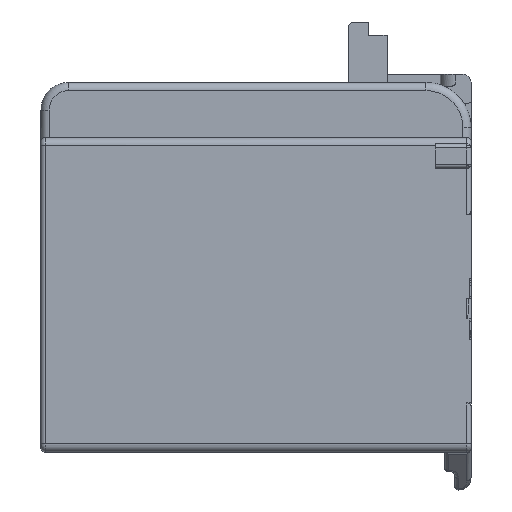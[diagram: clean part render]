
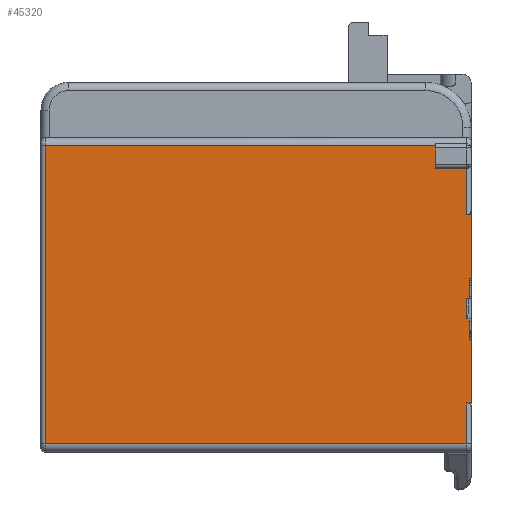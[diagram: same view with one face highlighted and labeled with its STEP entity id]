
A CAD part, left-side view. The second image highlights one B-rep face of the part: STEP entity #45320.
In plain terms, the highlighted planar face has unit normal (-1, 0, 0).
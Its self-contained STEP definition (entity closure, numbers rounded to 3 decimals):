
#41840=CARTESIAN_POINT('',(-6.725,0.2,-6.65));
#41850=VERTEX_POINT('',#41840);
#41900=CARTESIAN_POINT('',(-6.725,0.,-6.65));
#41910=DIRECTION('',(0.,-1.,0.));
#41920=VECTOR('',#41910,1.);
#41930=LINE('',#41900,#41920);
#41940=CARTESIAN_POINT('',(-6.725,0.,-6.65));
#41950=VERTEX_POINT('',#41940);
#41960=EDGE_CURVE('',#41850,#41950,#41930,.T.);
#43900=CARTESIAN_POINT('',(-6.725,0.,-9.1));
#43910=DIRECTION('',(-1.,0.,0.));
#43920=DIRECTION('',(0.,0.,1.));
#43930=AXIS2_PLACEMENT_3D('',#43900,#43910,#43920);
#43940=PLANE('',#43930);
#43950=CARTESIAN_POINT('',(-6.725,-27.636,5.9));
#43960=DIRECTION('',(0.,1.,0.));
#43970=VECTOR('',#43960,1.);
#43980=LINE('',#43950,#43970);
#43990=CARTESIAN_POINT('',(-6.725,1.75,5.9));
#44000=VERTEX_POINT('',#43990);
#44010=CARTESIAN_POINT('',(-6.725,20.8,5.9));
#44020=VERTEX_POINT('',#44010);
#44030=EDGE_CURVE('',#44000,#44020,#43980,.T.);
#44040=ORIENTED_EDGE('',*,*,#44030,.T.);
#44050=CARTESIAN_POINT('',(-6.725,1.75,5.9));
#44060=DIRECTION('',(0.,0.,-1.));
#44070=VECTOR('',#44060,1.1);
#44080=LINE('',#44050,#44070);
#44090=CARTESIAN_POINT('',(-6.725,1.75,4.8));
#44100=VERTEX_POINT('',#44090);
#44110=EDGE_CURVE('',#44000,#44100,#44080,.T.);
#44120=ORIENTED_EDGE('',*,*,#44110,.F.);
#44130=CARTESIAN_POINT('',(-6.725,0.2,4.8));
#44140=DIRECTION('',(0.,1.,0.));
#44150=VECTOR('',#44140,1.55);
#44160=LINE('',#44130,#44150);
#44170=CARTESIAN_POINT('',(-6.725,0.2,4.8));
#44180=VERTEX_POINT('',#44170);
#44190=EDGE_CURVE('',#44180,#44100,#44160,.T.);
#44200=ORIENTED_EDGE('',*,*,#44190,.T.);
#44210=CARTESIAN_POINT('',(-6.725,0.2,4.8));
#44220=DIRECTION('',(0.,0.,-1.));
#44230=VECTOR('',#44220,2.25);
#44240=LINE('',#44210,#44230);
#44250=CARTESIAN_POINT('',(-6.725,0.2,2.55));
#44260=VERTEX_POINT('',#44250);
#44270=EDGE_CURVE('',#44180,#44260,#44240,.T.);
#44280=ORIENTED_EDGE('',*,*,#44270,.F.);
#44290=CARTESIAN_POINT('',(-6.725,0.,2.55));
#44300=DIRECTION('',(0.,-1.,0.));
#44310=VECTOR('',#44300,1.);
#44320=LINE('',#44290,#44310);
#44330=CARTESIAN_POINT('',(-6.725,0.,2.55));
#44340=VERTEX_POINT('',#44330);
#44350=EDGE_CURVE('',#44260,#44340,#44320,.T.);
#44360=ORIENTED_EDGE('',*,*,#44350,.F.);
#44370=CARTESIAN_POINT('',(-6.725,0.,0.));
#44380=DIRECTION('',(0.,0.,1.));
#44390=VECTOR('',#44380,1.);
#44400=LINE('',#44370,#44390);
#44410=CARTESIAN_POINT('',(-6.725,0.,-0.55));
#44420=VERTEX_POINT('',#44410);
#44430=EDGE_CURVE('',#44420,#44340,#44400,.T.);
#44440=ORIENTED_EDGE('',*,*,#44430,.T.);
#44450=CARTESIAN_POINT('',(-6.725,0.,-0.55));
#44460=DIRECTION('',(0.,-1.,0.));
#44470=VECTOR('',#44460,1.);
#44480=LINE('',#44450,#44470);
#44490=CARTESIAN_POINT('',(-6.725,0.1,-0.55));
#44500=VERTEX_POINT('',#44490);
#44510=EDGE_CURVE('',#44500,#44420,#44480,.T.);
#44520=ORIENTED_EDGE('',*,*,#44510,.T.);
#44530=CARTESIAN_POINT('',(-6.725,0.1,-1.55));
#44540=DIRECTION('',(0.,0.,1.));
#44550=VECTOR('',#44540,1.);
#44560=LINE('',#44530,#44550);
#44570=CARTESIAN_POINT('',(-6.725,0.1,-1.55));
#44580=VERTEX_POINT('',#44570);
#44590=EDGE_CURVE('',#44580,#44500,#44560,.T.);
#44600=ORIENTED_EDGE('',*,*,#44590,.T.);
#44610=CARTESIAN_POINT('',(-6.725,0.2,-1.55));
#44620=DIRECTION('',(0.,-1.,0.));
#44630=VECTOR('',#44620,0.1);
#44640=LINE('',#44610,#44630);
#44650=CARTESIAN_POINT('',(-6.725,0.199,-1.55));
#44660=VERTEX_POINT('',#44650);
#44670=EDGE_CURVE('',#44660,#44580,#44640,.T.);
#44680=ORIENTED_EDGE('',*,*,#44670,.T.);
#44690=CARTESIAN_POINT('',(-6.725,0.199,0.));
#44700=DIRECTION('',(-0.,0.,-1.));
#44710=VECTOR('',#44700,1.);
#44720=LINE('',#44690,#44710);
#44730=CARTESIAN_POINT('',(-6.725,0.199,-2.55));
#44740=VERTEX_POINT('',#44730);
#44750=EDGE_CURVE('',#44660,#44740,#44720,.T.);
#44760=ORIENTED_EDGE('',*,*,#44750,.F.);
#44770=CARTESIAN_POINT('',(-6.725,0.,-2.55));
#44780=DIRECTION('',(0.,1.,-0.));
#44790=VECTOR('',#44780,1.);
#44800=LINE('',#44770,#44790);
#44810=CARTESIAN_POINT('',(-6.725,0.1,-2.55));
#44820=VERTEX_POINT('',#44810);
#44830=EDGE_CURVE('',#44820,#44740,#44800,.T.);
#44840=ORIENTED_EDGE('',*,*,#44830,.T.);
#44850=CARTESIAN_POINT('',(-6.725,0.1,-3.55));
#44860=DIRECTION('',(0.,0.,1.));
#44870=VECTOR('',#44860,1.);
#44880=LINE('',#44850,#44870);
#44890=CARTESIAN_POINT('',(-6.725,0.1,-3.55));
#44900=VERTEX_POINT('',#44890);
#44910=EDGE_CURVE('',#44900,#44820,#44880,.T.);
#44920=ORIENTED_EDGE('',*,*,#44910,.T.);
#44930=CARTESIAN_POINT('',(-6.725,0.,-3.55));
#44940=DIRECTION('',(0.,-1.,0.));
#44950=VECTOR('',#44940,1.);
#44960=LINE('',#44930,#44950);
#44970=CARTESIAN_POINT('',(-6.725,0.,-3.55));
#44980=VERTEX_POINT('',#44970);
#44990=EDGE_CURVE('',#44900,#44980,#44960,.T.);
#45000=ORIENTED_EDGE('',*,*,#44990,.F.);
#45010=CARTESIAN_POINT('',(-6.725,0.,0.));
#45020=DIRECTION('',(0.,-0.,1.));
#45030=VECTOR('',#45020,1.);
#45040=LINE('',#45010,#45030);
#45050=EDGE_CURVE('',#41950,#44980,#45040,.T.);
#45060=ORIENTED_EDGE('',*,*,#45050,.T.);
#45070=ORIENTED_EDGE('',*,*,#41960,.T.);
#45080=CARTESIAN_POINT('',(-6.725,0.2,-6.65));
#45090=DIRECTION('',(0.,0.,-1.));
#45100=VECTOR('',#45090,2.);
#45110=LINE('',#45080,#45100);
#45120=CARTESIAN_POINT('',(-6.725,0.2,
-8.65));
#45130=VERTEX_POINT('',#45120);
#45140=EDGE_CURVE('',#41850,#45130,#45110,.T.);
#45150=ORIENTED_EDGE('',*,*,#45140,.F.);
#45160=CARTESIAN_POINT('',(-6.725,0.2,-8.65));
#45170=DIRECTION('',(0.,1.,0.));
#45180=VECTOR('',#45170,20.6);
#45190=LINE('',#45160,#45180);
#45200=CARTESIAN_POINT('',(-6.725,20.8,-8.65));
#45210=VERTEX_POINT('',#45200);
#45220=EDGE_CURVE('',#45130,#45210,#45190,.T.);
#45230=ORIENTED_EDGE('',*,*,#45220,.F.);
#45240=CARTESIAN_POINT('',(-6.725,20.8,5.951));
#45250=DIRECTION('',(0.,0.,-1.));
#45260=VECTOR('',#45250,1.);
#45270=LINE('',#45240,#45260);
#45280=EDGE_CURVE('',#44020,#45210,#45270,.T.);
#45290=ORIENTED_EDGE('',*,*,#45280,.T.);
#45300=EDGE_LOOP('',(#45290,#45230,#45150,#45070,#45060,#45000,#44920,
#44840,#44760,#44680,#44600,#44520,#44440,#44360,#44280,#44200,#44120,
#44040));
#45310=FACE_OUTER_BOUND('',#45300,.T.);
#45320=ADVANCED_FACE('',(#45310),#43940,.T.);
